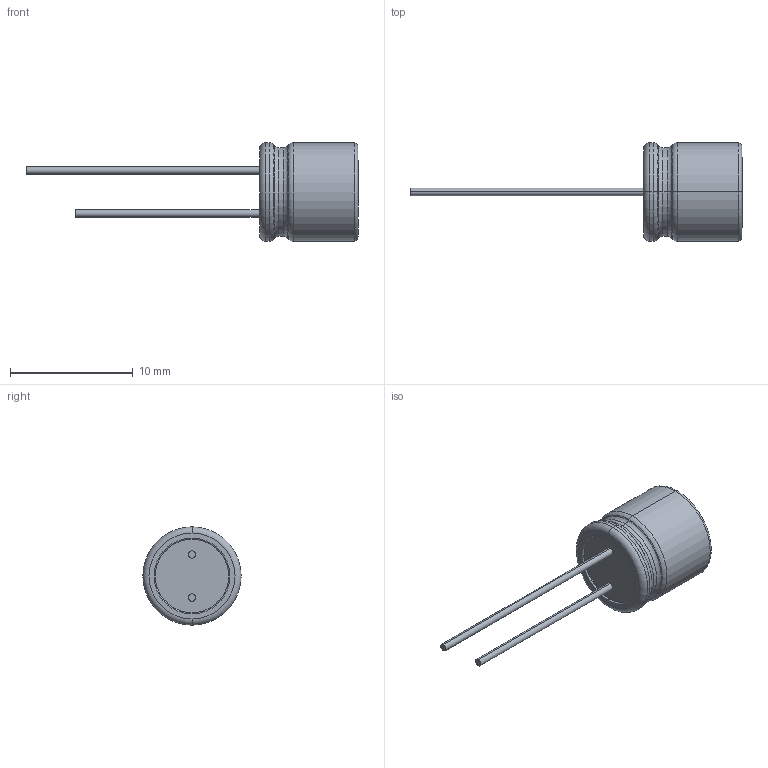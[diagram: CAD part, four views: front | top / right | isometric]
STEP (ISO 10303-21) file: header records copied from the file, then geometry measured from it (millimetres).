
FILE_DESCRIPTION((''),'2;1');
FILE_NAME('POLYMER-RADIAL8X8','2020-06-03T',('xy'),(''),'PRO/ENGINEER BY PARAMETRIC TECHNOLOGY CORPORATION, 2009380','PRO/ENGINEER BY PARAMETRIC TECHNOLOGY CORPORATION, 2009380','');
FILE_SCHEMA(('CONFIG_CONTROL_DESIGN'));
Length unit declared in the file: millimetre
Products named in the file (1): POLYMER-RADIAL8X8
Bounding box: 27 x 8 x 8 mm (x, y, z)
Volume: 393.4 mm3; surface area: 364.3 mm2
Topology: 1 solids, 1 shells, 419 faces, 1154 edges, 762 vertices
Faces by surface type: plane 387, torus 15, cylinder 13, cone 4
Entity records: 13110 total; most frequent: CARTESIAN_POINT 2345, ORIENTED_EDGE 2308, DIRECTION 2044, EDGE_CURVE 1154, VECTOR 1098, LINE 1098, VERTEX_POINT 762, AXIS2_PLACEMENT_3D 473
